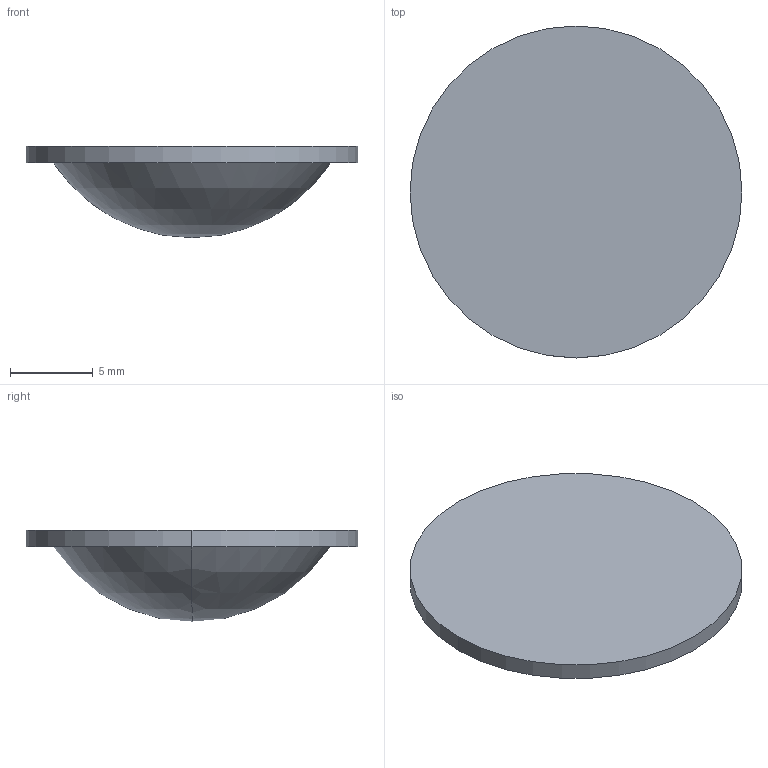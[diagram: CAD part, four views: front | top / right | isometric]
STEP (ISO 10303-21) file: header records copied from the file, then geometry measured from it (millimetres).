
FILE_DESCRIPTION(('STEP AP214'),'1');
FILE_NAME('LLV-5120M.STEP','2020-03-09T17:42:26',(' '),(' '),'Spatial InterOp 3D',' ',' ');
FILE_SCHEMA(('AUTOMOTIVE_DESIGN { 1 0 10303 214 1 1 1 1 }'));
Length unit declared in the file: millimetre
Products named in the file (1): 1
Bounding box: 20 x 20 x 5.5 mm (x, y, z)
Volume: 854.9 mm3; surface area: 1193 mm2
Topology: 2 solids, 2 shells, 7 faces, 13 edges, 8 vertices
Faces by surface type: plane 3, sphere 2, cylinder 2
Entity records: 189 total; most frequent: DIRECTION 38, CARTESIAN_POINT 28, ORIENTED_EDGE 22, AXIS2_PLACEMENT_3D 18, EDGE_CURVE 11, CIRCLE 9, VERTEX_POINT 8, ADVANCED_FACE 7
